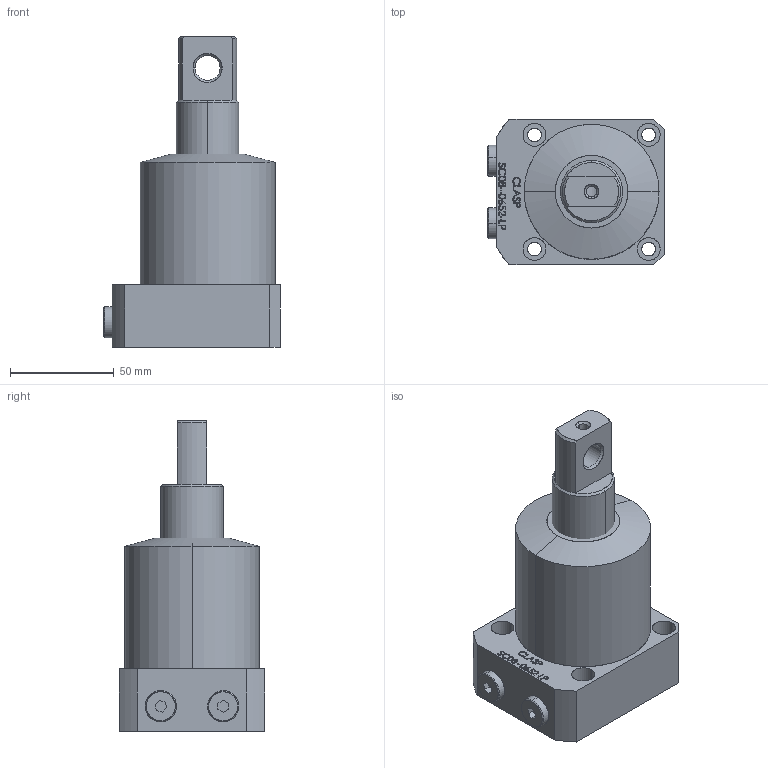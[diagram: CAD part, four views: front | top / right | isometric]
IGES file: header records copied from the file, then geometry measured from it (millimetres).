
Start section: SolidWorks IGES file using analytic representation for surfaces
Global section: file name: D:\karuppas\Clasp\3D model\SWING CYLINDER\Bottom Mounting swing cylinder-P type\SC08-0652 LP\SC08-0652-LP.IGS; native system: SolidWorks 2017; preprocessor: SolidWorks 2017; author: pc; date: 220708.223348; units: millimetre
Bounding box: 85 x 70 x 149.5 mm (x, y, z)
Surface area: 46867.3 mm2 (no closed solid volume)
Topology: 0 solids, 0 shells, 334 faces, 5380 edges, 5380 vertices
Faces by surface type: bspline 264, revolution 70
